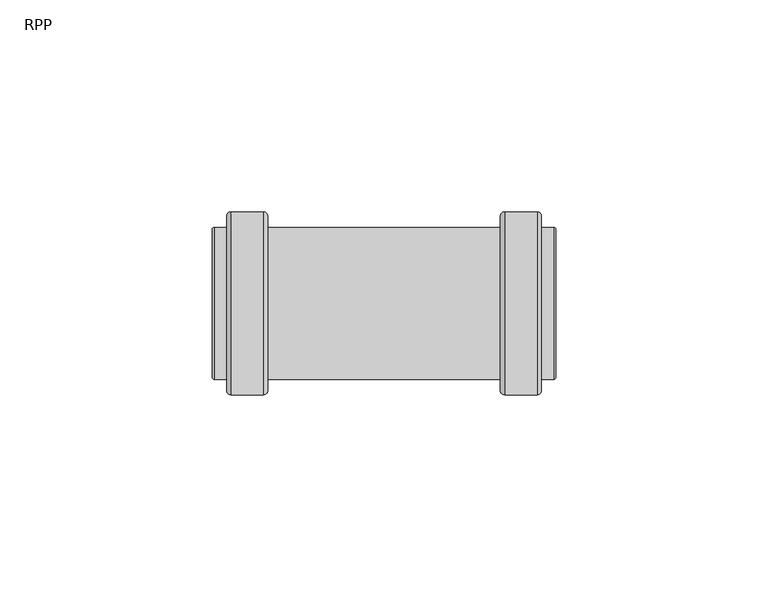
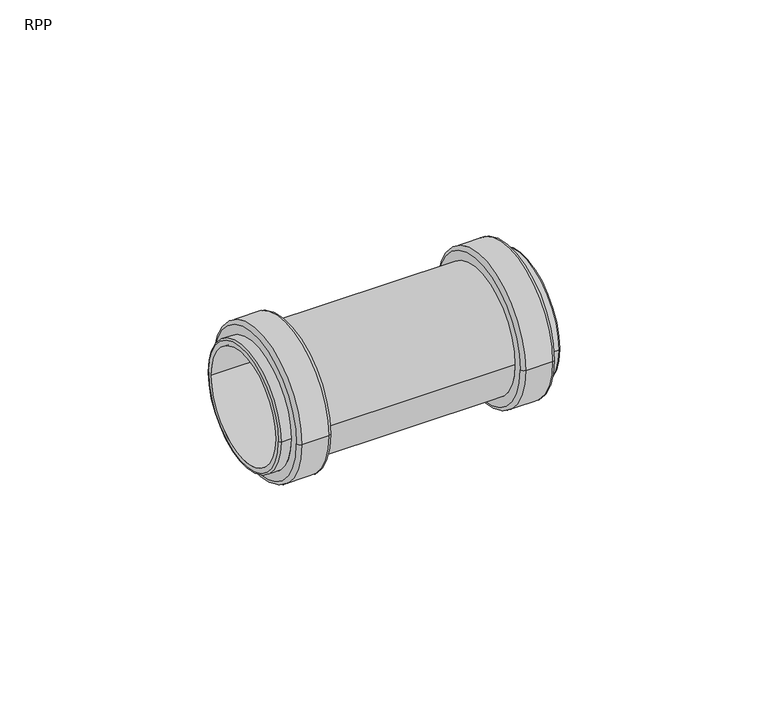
"""IFC4 building model written with IfcOpenShell, lengths in millimetres: pipe fitting geometry, RAUPIANO PLUS Double socket : RPP."""

from ifc_helpers import new_model, si_unit, point, frame, origin, place, context, project, spatial, polyline, circle_curve, ellipse_curve, trimmed, source, transform, mapped, element, save
from ifc_brep_helpers import plane_surface, cylinder_surface, revolved_surface, advanced_brep


def rpp_0c612c17(model_context):
    return source(origin(), model_context, "Body", "AdvancedBrep", [
        advanced_brep(
        [(-36.1, 21.55, 0.0), (-36.1, -21.55, 0.0), (-37.1, -20.55, 0.0), (-37.1, 20.55, 0.0), (-28.4, 21.55, 0.0), (-28.4, -21.55, 0.0), (-27.4, 20.55, 0.0), (-27.4, -20.55, 0.0), (27.4, 17.9, 0.0), (27.4, -17.9, 0.0), (-27.4, -17.9, 0.0), (-27.4, 17.9, 0.0), (28.4, 21.55, 0.0), (28.4, -21.55, 0.0), (27.4, -20.55, 0.0), (27.4, 20.55, 0.0), (36.1, 21.55, 0.0), (36.1, -21.55, 0.0), (37.1, 20.55, 0.0), (37.1, -20.55, 0.0), (40.0, 17.9, 0.0), (40.0, -17.9, 0.0), (37.1, -17.9, 0.0), (37.1, 17.9, 0.0), (40.5, 17.4, 0.0), (40.5, -17.4, 0.0), (-40.5, 16.0, 0.0), (-40.5, -16.0, 0.0), (40.5, -16.0, 0.0), (40.5, 16.0, 0.0), (-40.0, 17.9, 0.0), (-40.0, -17.9, 0.0), (-40.5, -17.4, 0.0), (-40.5, 17.4, 0.0), (-37.1, 17.9, 0.0), (-37.1, -17.9, 0.0)],
        [
            (0, 1, circle_curve(frame((-36.1, 0.0, 0.0), z_axis=(-1.0, 0.0, 0.0), x_axis=(0.0, -1.0, 0.0)), 21.55)),
            (1, 2, circle_curve(frame((-36.1, -20.55, 0.0), z_axis=(0.0, 0.0, -1.0), x_axis=(1.0, 0.0, 0.0)), 1.0)),
            (2, 3, circle_curve(frame((-37.1, 0.0, 0.0), z_axis=(1.0, 0.0, 0.0), x_axis=(0.0, -1.0, 0.0)), 20.55)),
            (3, 0, circle_curve(frame((-36.1, 20.55, 0.0), z_axis=(0.0, 0.0, -1.0), x_axis=(1.0, 0.0, 0.0)), 1.0)),
            (4, 5, circle_curve(frame((-28.4, 0.0, 0.0), z_axis=(-1.0, 0.0, 0.0), x_axis=(0.0, -1.0, 0.0)), 21.55)),
            (5, 1),
            (0, 4),
            (6, 7, circle_curve(frame((-27.4, 0.0, 0.0), z_axis=(-1.0, 0.0, 0.0), x_axis=(0.0, -1.0, 0.0)), 20.55)),
            (7, 5, circle_curve(frame((-28.4, -20.55, 0.0), z_axis=(0.0, 0.0, -1.0), x_axis=(1.0, 0.0, 0.0)), 1.0)),
            (4, 6, circle_curve(frame((-28.4, 20.55, 0.0), z_axis=(0.0, 0.0, -1.0), x_axis=(1.0, 0.0, 0.0)), 1.0)),
            (8, 9, circle_curve(frame((27.4, 0.0, 0.0), z_axis=(-1.0, 0.0, 0.0), x_axis=(0.0, -1.0, 0.0)), 17.9)),
            (9, 10),
            (10, 11, circle_curve(frame((-27.4, 0.0, 0.0), z_axis=(1.0, 0.0, 0.0), x_axis=(0.0, -1.0, 0.0)), 17.9)),
            (11, 8),
            (12, 13, circle_curve(frame((28.4, 0.0, 0.0), z_axis=(-1.0, 0.0, 0.0), x_axis=(0.0, -1.0, 0.0)), 21.55)),
            (13, 14, circle_curve(frame((28.4, -20.55, 0.0), z_axis=(0.0, 0.0, -1.0), x_axis=(1.0, 0.0, 0.0)), 1.0)),
            (14, 15, circle_curve(frame((27.4, 0.0, 0.0), z_axis=(1.0, 0.0, 0.0), x_axis=(0.0, -1.0, 0.0)), 20.55)),
            (15, 12, circle_curve(frame((28.4, 20.55, 0.0), z_axis=(0.0, 0.0, -1.0), x_axis=(1.0, 0.0, 0.0)), 1.0)),
            (16, 17, circle_curve(frame((36.1, 0.0, 0.0), z_axis=(-1.0, 0.0, 0.0), x_axis=(0.0, -1.0, 0.0)), 21.55)),
            (17, 13),
            (12, 16),
            (18, 19, circle_curve(frame((37.1, 0.0, 0.0), z_axis=(-1.0, 0.0, 0.0), x_axis=(0.0, -1.0, 0.0)), 20.55)),
            (19, 17, circle_curve(frame((36.1, -20.55, 0.0), z_axis=(0.0, 0.0, -1.0), x_axis=(1.0, 0.0, 0.0)), 1.0)),
            (16, 18, circle_curve(frame((36.1, 20.55, 0.0), z_axis=(0.0, 0.0, -1.0), x_axis=(1.0, 0.0, 0.0)), 1.0)),
            (20, 21, circle_curve(frame((40.0, 0.0, 0.0), z_axis=(-1.0, 0.0, 0.0), x_axis=(0.0, -1.0, 0.0)), 17.9)),
            (21, 22),
            (22, 23, circle_curve(frame((37.1, 0.0, 0.0), z_axis=(1.0, 0.0, 0.0), x_axis=(0.0, -1.0, 0.0)), 17.9)),
            (23, 20),
            (24, 25, circle_curve(frame((40.5, 0.0, 0.0), z_axis=(-1.0, 0.0, 0.0), x_axis=(0.0, -1.0, 0.0)), 17.4)),
            (25, 21, circle_curve(frame((40.0, -17.4, 0.0), z_axis=(0.0, 0.0, -1.0), x_axis=(1.0, 0.0, 0.0)), 0.5)),
            (20, 24, circle_curve(frame((40.0, 17.4, 0.0), z_axis=(0.0, 0.0, -1.0), x_axis=(1.0, 0.0, 0.0)), 0.5)),
            (26, 27, circle_curve(frame((-40.5, 0.0, 0.0), z_axis=(-1.0, 0.0, 0.0), x_axis=(0.0, -1.0, 0.0)), 16.0)),
            (27, 28),
            (28, 29, circle_curve(frame((40.5, 0.0, 0.0), z_axis=(1.0, 0.0, 0.0), x_axis=(0.0, -1.0, 0.0)), 16.0)),
            (29, 26),
            (30, 31, circle_curve(frame((-40.0, 0.0, 0.0), z_axis=(-1.0, 0.0, 0.0), x_axis=(0.0, -1.0, 0.0)), 17.9)),
            (31, 32, circle_curve(frame((-40.0, -17.4, 0.0), z_axis=(0.0, 0.0, -1.0), x_axis=(1.0, 0.0, 0.0)), 0.5)),
            (32, 33, circle_curve(frame((-40.5, 0.0, 0.0), z_axis=(1.0, 0.0, 0.0), x_axis=(0.0, -1.0, 0.0)), 17.4)),
            (33, 30, circle_curve(frame((-40.0, 17.4, 0.0), z_axis=(0.0, 0.0, -1.0), x_axis=(1.0, 0.0, 0.0)), 0.5)),
            (34, 35, circle_curve(frame((-37.1, 0.0, 0.0), z_axis=(-1.0, 0.0, 0.0), x_axis=(0.0, -1.0, 0.0)), 17.9)),
            (35, 31),
            (30, 34),
            (2, 3, circle_curve(frame((-37.1, 0.0, 0.0), z_axis=(-1.0, 0.0, 0.0), x_axis=(0.0, 1.0, 0.0)), 20.55)),
            (34, 35, circle_curve(frame((-37.1, 0.0, 0.0), z_axis=(1.0, 0.0, 0.0), x_axis=(0.0, 1.0, 0.0)), 17.9)),
            (1, 0, circle_curve(frame((-36.1, 0.0, 0.0), z_axis=(-1.0, 0.0, 0.0), x_axis=(0.0, 1.0, 0.0)), 21.55)),
            (5, 4, circle_curve(frame((-28.4, 0.0, 0.0), z_axis=(-1.0, 0.0, 0.0), x_axis=(0.0, 1.0, 0.0)), 21.55)),
            (7, 6, circle_curve(frame((-27.4, 0.0, 0.0), z_axis=(-1.0, 0.0, 0.0), x_axis=(0.0, 1.0, 0.0)), 20.55)),
            (10, 11, circle_curve(frame((-27.4, 0.0, 0.0), z_axis=(-1.0, 0.0, 0.0), x_axis=(0.0, 1.0, 0.0)), 17.9)),
            (9, 8, circle_curve(frame((27.4, 0.0, 0.0), z_axis=(-1.0, 0.0, 0.0), x_axis=(0.0, 1.0, 0.0)), 17.9)),
            (14, 15, circle_curve(frame((27.4, 0.0, 0.0), z_axis=(-1.0, 0.0, 0.0), x_axis=(0.0, 1.0, 0.0)), 20.55)),
            (13, 12, circle_curve(frame((28.4, 0.0, 0.0), z_axis=(-1.0, 0.0, 0.0), x_axis=(0.0, 1.0, 0.0)), 21.55)),
            (17, 16, circle_curve(frame((36.1, 0.0, 0.0), z_axis=(-1.0, 0.0, 0.0), x_axis=(0.0, 1.0, 0.0)), 21.55)),
            (19, 18, circle_curve(frame((37.1, 0.0, 0.0), z_axis=(-1.0, 0.0, 0.0), x_axis=(0.0, 1.0, 0.0)), 20.55)),
            (22, 23, circle_curve(frame((37.1, 0.0, 0.0), z_axis=(-1.0, 0.0, 0.0), x_axis=(0.0, 1.0, 0.0)), 17.9)),
            (21, 20, circle_curve(frame((40.0, 0.0, 0.0), z_axis=(-1.0, 0.0, 0.0), x_axis=(0.0, 1.0, 0.0)), 17.9)),
            (25, 24, circle_curve(frame((40.5, 0.0, 0.0), z_axis=(-1.0, 0.0, 0.0), x_axis=(0.0, 1.0, 0.0)), 17.4)),
            (28, 29, circle_curve(frame((40.5, 0.0, 0.0), z_axis=(-1.0, 0.0, 0.0), x_axis=(0.0, 1.0, 0.0)), 16.0)),
            (27, 26, circle_curve(frame((-40.5, 0.0, 0.0), z_axis=(-1.0, 0.0, 0.0), x_axis=(0.0, 1.0, 0.0)), 16.0)),
            (32, 33, circle_curve(frame((-40.5, 0.0, 0.0), z_axis=(-1.0, 0.0, 0.0), x_axis=(0.0, 1.0, 0.0)), 17.4)),
            (31, 30, circle_curve(frame((-40.0, 0.0, 0.0), z_axis=(-1.0, 0.0, 0.0), x_axis=(0.0, 1.0, 0.0)), 17.9)),
        ],
        [
            revolved_surface(trimmed(ellipse_curve(frame((-36.1, -20.55, 0.0), z_axis=(0.0, 0.0, 1.0), x_axis=(1.0, 0.0, 0.0)), 1.0, 1.0), [point((-37.1, -20.55, 0.0))], [point((-36.1, -21.55, 0.0))], True, "CARTESIAN"), (0.0, 0.0, 0.0), (1.0, 0.0, 0.0)),
            cylinder_surface(frame((0.0, 0.0, 0.0), z_axis=(1.0, 0.0, 0.0), x_axis=(0.0, -1.0, 0.0)), 21.55),
            revolved_surface(trimmed(ellipse_curve(frame((-28.4, -20.55, 0.0), z_axis=(0.0, 0.0, 1.0), x_axis=(1.0, 0.0, 0.0)), 1.0, 1.0), [point((-28.4, -21.55, 0.0))], [point((-27.4, -20.55, 0.0))], True, "CARTESIAN"), (0.0, 0.0, 0.0), (1.0, 0.0, 0.0)),
            cylinder_surface(frame((0.0, 0.0, 0.0), z_axis=(1.0, 0.0, 0.0), x_axis=(0.0, -1.0, 0.0)), 17.9),
            revolved_surface(trimmed(ellipse_curve(frame((28.4, -20.55, 0.0), z_axis=(0.0, 0.0, 1.0), x_axis=(1.0, 0.0, 0.0)), 1.0, 1.0), [point((27.4, -20.55, 0.0))], [point((28.4, -21.55, 0.0))], True, "CARTESIAN"), (0.0, 0.0, 0.0), (1.0, 0.0, 0.0)),
            revolved_surface(trimmed(ellipse_curve(frame((36.1, -20.55, 0.0), z_axis=(0.0, 0.0, 1.0), x_axis=(1.0, 0.0, 0.0)), 1.0, 1.0), [point((36.1, -21.55, 0.0))], [point((37.1, -20.55, 0.0))], True, "CARTESIAN"), (0.0, 0.0, 0.0), (1.0, 0.0, 0.0)),
            revolved_surface(trimmed(ellipse_curve(frame((40.0, -17.4, 0.0), z_axis=(0.0, 0.0, 1.0), x_axis=(1.0, 0.0, 0.0)), 0.5, 0.5), [point((40.0, -17.9, 0.0))], [point((40.5, -17.4, 0.0))], True, "CARTESIAN"), (0.0, 0.0, 0.0), (1.0, 0.0, 0.0)),
            revolved_surface(polyline([(40.5, -16.0, 0.0), (-40.5, -16.0, 0.0)]), (0.0, 0.0, 0.0), (1.0, 0.0, 0.0)),
            revolved_surface(trimmed(ellipse_curve(frame((-40.0, -17.4, 0.0), z_axis=(0.0, 0.0, 1.0), x_axis=(1.0, 0.0, 0.0)), 0.5, 0.5), [point((-40.5, -17.4, 0.0))], [point((-40.0, -17.9, 0.0))], True, "CARTESIAN"), (0.0, 0.0, 0.0), (1.0, 0.0, 0.0)),
            plane_surface(frame((-37.1, 0.0, 0.0), z_axis=(-1.0, 0.0, 0.0), x_axis=(0.0, 1.0, 0.0))),
            revolved_surface(trimmed(ellipse_curve(frame((-36.1, 20.55, 0.0), z_axis=(0.0, 0.0, -1.0), x_axis=(1.0, 0.0, 0.0)), 1.0, 1.0), [point((-37.1, 20.55, 0.0))], [point((-36.1, 21.55, 0.0))], True, "CARTESIAN"), (0.0, 0.0, 0.0), (1.0, 0.0, 0.0)),
            cylinder_surface(frame((0.0, 0.0, 0.0), z_axis=(1.0, 0.0, 0.0), x_axis=(0.0, 1.0, 0.0)), 21.55),
            revolved_surface(trimmed(ellipse_curve(frame((-28.4, 20.55, 0.0), z_axis=(0.0, 0.0, -1.0), x_axis=(1.0, 0.0, 0.0)), 1.0, 1.0), [point((-28.4, 21.55, 0.0))], [point((-27.4, 20.55, 0.0))], True, "CARTESIAN"), (0.0, 0.0, 0.0), (1.0, 0.0, 0.0)),
            plane_surface(frame((-27.4, 0.0, 0.0), z_axis=(1.0, 0.0, 0.0), x_axis=(0.0, 1.0, 0.0))),
            cylinder_surface(frame((0.0, 0.0, 0.0), z_axis=(1.0, 0.0, 0.0), x_axis=(0.0, 1.0, 0.0)), 17.9),
            plane_surface(frame((27.4, 0.0, 0.0), z_axis=(-1.0, 0.0, 0.0), x_axis=(0.0, 1.0, 0.0))),
            revolved_surface(trimmed(ellipse_curve(frame((28.4, 20.55, 0.0), z_axis=(0.0, 0.0, -1.0), x_axis=(1.0, 0.0, 0.0)), 1.0, 1.0), [point((27.4, 20.55, 0.0))], [point((28.4, 21.55, 0.0))], True, "CARTESIAN"), (0.0, 0.0, 0.0), (1.0, 0.0, 0.0)),
            revolved_surface(trimmed(ellipse_curve(frame((36.1, 20.55, 0.0), z_axis=(0.0, 0.0, -1.0), x_axis=(1.0, 0.0, 0.0)), 1.0, 1.0), [point((36.1, 21.55, 0.0))], [point((37.1, 20.55, 0.0))], True, "CARTESIAN"), (0.0, 0.0, 0.0), (1.0, 0.0, 0.0)),
            plane_surface(frame((37.1, 0.0, 0.0), z_axis=(1.0, 0.0, 0.0), x_axis=(0.0, 1.0, 0.0))),
            revolved_surface(trimmed(ellipse_curve(frame((40.0, 17.4, 0.0), z_axis=(0.0, 0.0, -1.0), x_axis=(1.0, 0.0, 0.0)), 0.5, 0.5), [point((40.0, 17.9, 0.0))], [point((40.5, 17.4, 0.0))], True, "CARTESIAN"), (0.0, 0.0, 0.0), (1.0, 0.0, 0.0)),
            plane_surface(frame((40.5, 0.0, 0.0), z_axis=(1.0, 0.0, 0.0), x_axis=(0.0, 1.0, 0.0))),
            revolved_surface(polyline([(40.5, 16.0, 0.0), (-40.5, 16.0, 0.0)]), (0.0, 0.0, 0.0), (1.0, 0.0, 0.0)),
            plane_surface(frame((-40.5, 0.0, 0.0), z_axis=(-1.0, 0.0, 0.0), x_axis=(0.0, 1.0, 0.0))),
            revolved_surface(trimmed(ellipse_curve(frame((-40.0, 17.4, 0.0), z_axis=(0.0, 0.0, -1.0), x_axis=(1.0, 0.0, 0.0)), 0.5, 0.5), [point((-40.5, 17.4, 0.0))], [point((-40.0, 17.9, 0.0))], True, "CARTESIAN"), (0.0, 0.0, 0.0), (1.0, 0.0, 0.0)),
        ],
        [
            (0, [[1, 2, 3, 4]]),
            (1, [[5, 6, -1, 7]]),
            (2, [[8, 9, -5, 10]]),
            (3, [[11, 12, 13, 14]]),
            (4, [[15, 16, 17, 18]]),
            (1, [[19, 20, -15, 21]]),
            (5, [[22, 23, -19, 24]]),
            (3, [[25, 26, 27, 28]]),
            (6, [[29, 30, -25, 31]]),
            (7, [[32, 33, 34, 35]]),
            (8, [[36, 37, 38, 39]]),
            (3, [[40, 41, -36, 42]]),
            (9, [[43, -3], [44, -40]]),
            (10, [[45, -4, -43, -2]]),
            (11, [[46, -7, -45, -6]]),
            (12, [[47, -10, -46, -9]]),
            (13, [[-47, -8], [48, -13]]),
            (14, [[49, -14, -48, -12]]),
            (15, [[50, -17], [-49, -11]]),
            (16, [[51, -18, -50, -16]]),
            (11, [[52, -21, -51, -20]]),
            (17, [[53, -24, -52, -23]]),
            (18, [[-53, -22], [54, -27]]),
            (14, [[55, -28, -54, -26]]),
            (19, [[56, -31, -55, -30]]),
            (20, [[-56, -29], [57, -34]]),
            (21, [[58, -35, -57, -33]]),
            (22, [[59, -38], [-58, -32]]),
            (23, [[60, -39, -59, -37]]),
            (14, [[-44, -42, -60, -41]]),
        ],
    ),
    ])


if __name__ == "__main__":
    model = new_model("IFC4")
    model_context = context("Model", 3, world=origin())
    ifc_project = project(units=[si_unit("LENGTHUNIT", "METRE", prefix="MILLI")], contexts=[model_context])
    site = spatial("IfcSite", under=ifc_project)
    building = spatial("IfcBuilding", under=site)
    placement = place(None, origin())
    rpp_shape = rpp_0c612c17(model_context)
    element("IfcPipeFitting", 1, ObjectType="RAUPIANO PLUS Double socket : RPP", at=placement, inside=building, context=model_context, shape_type="MappedRepresentation", body=[
        mapped(rpp_shape, transform((0.0, 0.0, 0.0), x_axis=(1.0, 0.0, 0.0), y_axis=(0.0, 1.0, 0.0), z_axis=(0.0, 0.0, 1.0))),
    ])
    save(model, "model.ifc")
